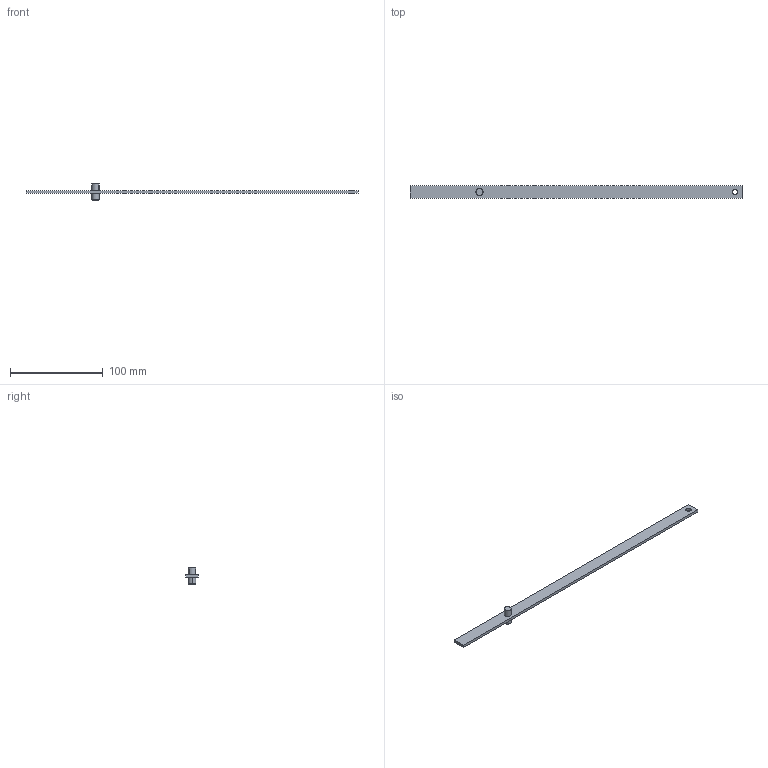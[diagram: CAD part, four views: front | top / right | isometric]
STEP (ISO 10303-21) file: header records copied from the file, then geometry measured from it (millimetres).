
FILE_DESCRIPTION (( 'STEP AP214' ), '1' );
FILE_NAME ('P18-351.STEP', '2016-08-18T09:44:31', ( 'RST-Dolba' ), ( '' ), 'SwSTEP 2.0', 'SolidWorks 2015', '' );
FILE_SCHEMA (( 'AUTOMOTIVE_DESIGN' ));
Length unit declared in the file: millimetre
Products named in the file (4): 1C.PDB.02.01.00_A; 1C.PD.B.Z.X.Y.01_P18-351; 1C.PDB.02.02.00_A; P18-351
Assembly tree (3 placements, depth 2):
  P18-351
    1C.PD.B.Z.X.Y.01_P18-351
    1C.PDB.02.01.00_A
    1C.PDB.02.02.00_A
Bounding box: 358.5 x 14 x 18.1 mm (x, y, z)
Volume: 15735.5 mm3; surface area: 13063.5 mm2
Topology: 3 solids, 3 shells, 40 faces, 84 edges, 51 vertices
Faces by surface type: cylinder 16, plane 12, cone 12
Entity records: 1226 total; most frequent: DIRECTION 216, CARTESIAN_POINT 179, ORIENTED_EDGE 164, AXIS2_PLACEMENT_3D 88, EDGE_CURVE 82, VERTEX_POINT 51, EDGE_LOOP 49, CIRCLE 42
